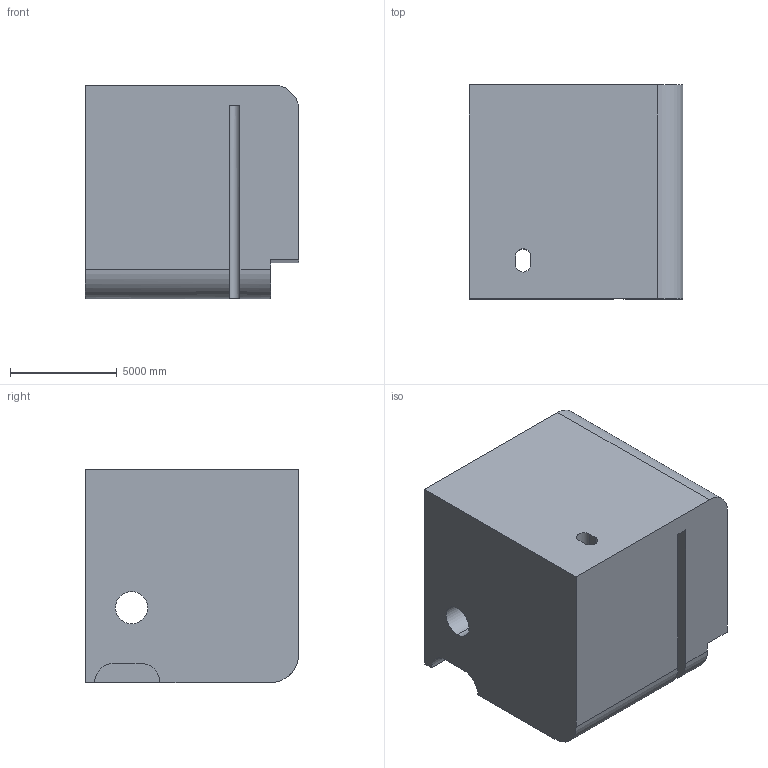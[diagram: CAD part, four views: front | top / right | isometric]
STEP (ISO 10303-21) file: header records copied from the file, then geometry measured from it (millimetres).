
FILE_DESCRIPTION (( 'STEP AP203' ), '1' );
FILE_NAME ('172.STEP', '2022-09-06T12:39:04', ( 'user' ), ( '' ), 'SwSTEP 2.0', 'SolidWorks 2021', '' );
FILE_SCHEMA (( 'CONFIG_CONTROL_DESIGN' ));
Length unit declared in the file: centimetre
Products named in the file (1): 172
Bounding box: 10000 x 10000 x 10000 mm (x, y, z)
Volume: 914332226027.1 mm3; surface area: 720444437.6 mm2
Topology: 1 solids, 1 shells, 28 faces, 78 edges, 52 vertices
Faces by surface type: plane 16, cylinder 12
Entity records: 1063 total; most frequent: CARTESIAN_POINT 236, DIRECTION 158, ORIENTED_EDGE 156, EDGE_CURVE 78, AXIS2_PLACEMENT_3D 54, VERTEX_POINT 52, VECTOR 50, LINE 50
